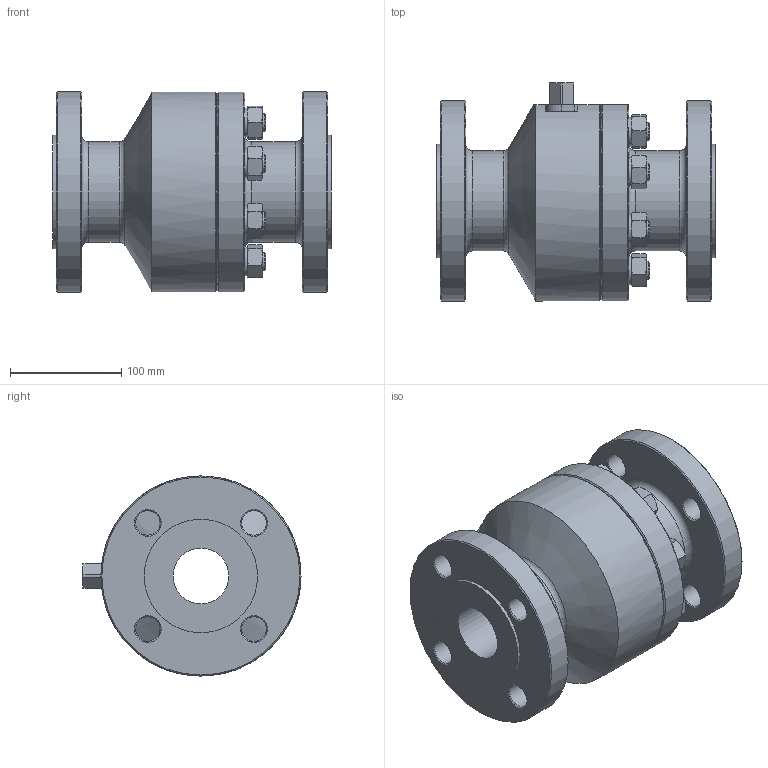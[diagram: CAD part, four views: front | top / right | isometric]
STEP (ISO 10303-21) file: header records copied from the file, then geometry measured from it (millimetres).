
FILE_DESCRIPTION((''),'2;1');
FILE_NAME('C:\Users\Bartek\Desktop\Nowy folder (2)\Nowy folder (22)\WK5b\WK5b DN50 PN63_Substitute_1.stp','2024-09-17T08:41:16',('Bartek'),(''),'Autodesk Inventor 2012','Autodesk Inventor 2012','');
FILE_SCHEMA(('AUTOMOTIVE_DESIGN { 1 0 10303 214 1 1 1 1 }'));
Length unit declared in the file: millimetre
Products named in the file (1): WK5b DN50 PN63_Substitute_1
Bounding box: 250 x 196 x 180 mm (x, y, z)
Volume: 3801437.5 mm3; surface area: 314662.6 mm2
Topology: 1 solids, 1 shells, 270 faces, 595 edges, 359 vertices
Faces by surface type: cone 128, plane 96, cylinder 42, torus 4
Full cylindrical faces by diameter (mm): 16 x8, 22 x8, 26 x8, 50 x1, 90 x2, 102 x2, 110 x1, 180 x2
Entity records: 7003 total; most frequent: CARTESIAN_POINT 1524, DIRECTION 1075, ORIENTED_EDGE 1026, EDGE_CURVE 513, AXIS2_PLACEMENT_3D 490, EDGE_LOOP 385, VERTEX_POINT 342, STYLED_ITEM 271
